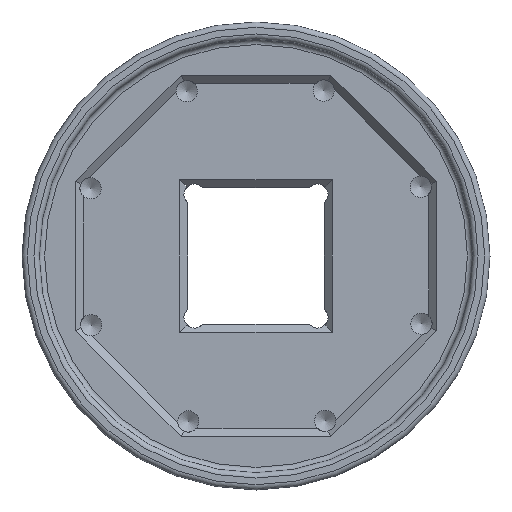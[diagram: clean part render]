
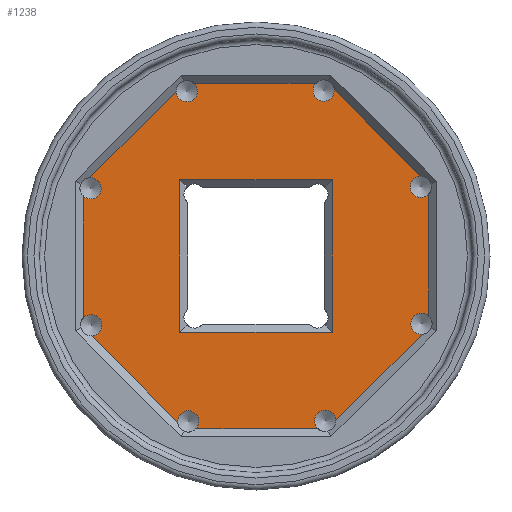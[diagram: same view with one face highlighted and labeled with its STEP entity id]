
A CAD part, front view. The second image highlights one B-rep face of the part: STEP entity #1238.
In plain terms, the highlighted planar face has unit normal (0, -1, 0).
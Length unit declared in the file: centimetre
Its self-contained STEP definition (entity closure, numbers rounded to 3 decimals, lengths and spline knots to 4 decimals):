
#478=VERTEX_POINT('',#10418);
#479=VERTEX_POINT('',#10419);
#484=VERTEX_POINT('',#10433);
#487=VERTEX_POINT('',#10443);
#490=VERTEX_POINT('',#10453);
#493=VERTEX_POINT('',#10462);
#495=VERTEX_POINT('',#10470);
#496=VERTEX_POINT('',#10472);
#497=VERTEX_POINT('',#10474);
#498=VERTEX_POINT('',#10476);
#499=VERTEX_POINT('',#10478);
#500=VERTEX_POINT('',#10480);
#501=VERTEX_POINT('',#10482);
#502=VERTEX_POINT('',#10484);
#503=VERTEX_POINT('',#10486);
#504=VERTEX_POINT('',#10488);
#505=VERTEX_POINT('',#10491);
#506=VERTEX_POINT('',#10492);
#507=VERTEX_POINT('',#10494);
#508=VERTEX_POINT('',#10496);
#588=EDGE_CURVE('',#478,#479,#3925,.T.);
#596=EDGE_CURVE('',#479,#484,#6855,.T.);
#600=EDGE_CURVE('',#484,#487,#3927,.T.);
#606=EDGE_CURVE('',#487,#490,#6861,.T.);
#609=EDGE_CURVE('',#490,#493,#3929,.T.);
#613=EDGE_CURVE('',#493,#495,#6864,.T.);
#614=EDGE_CURVE('',#495,#496,#3931,.T.);
#615=EDGE_CURVE('',#496,#497,#6865,.T.);
#616=EDGE_CURVE('',#497,#498,#3932,.T.);
#617=EDGE_CURVE('',#498,#499,#6866,.T.);
#618=EDGE_CURVE('',#499,#500,#3933,.T.);
#619=EDGE_CURVE('',#500,#501,#6867,.T.);
#620=EDGE_CURVE('',#501,#502,#3934,.T.);
#621=EDGE_CURVE('',#502,#503,#6868,.T.);
#622=EDGE_CURVE('',#503,#504,#3935,.T.);
#623=EDGE_CURVE('',#504,#478,#6869,.T.);
#624=EDGE_CURVE('',#505,#506,#6870,.T.);
#625=EDGE_CURVE('',#507,#505,#6871,.T.);
#626=EDGE_CURVE('',#508,#507,#6872,.T.);
#627=EDGE_CURVE('',#506,#508,#6873,.T.);
#787=ORIENTED_EDGE('',*,*,#588,.T.);
#788=ORIENTED_EDGE('',*,*,#596,.T.);
#789=ORIENTED_EDGE('',*,*,#600,.T.);
#790=ORIENTED_EDGE('',*,*,#606,.T.);
#791=ORIENTED_EDGE('',*,*,#609,.T.);
#792=ORIENTED_EDGE('',*,*,#613,.T.);
#793=ORIENTED_EDGE('',*,*,#614,.T.);
#794=ORIENTED_EDGE('',*,*,#615,.T.);
#795=ORIENTED_EDGE('',*,*,#616,.T.);
#796=ORIENTED_EDGE('',*,*,#617,.T.);
#797=ORIENTED_EDGE('',*,*,#618,.T.);
#798=ORIENTED_EDGE('',*,*,#619,.T.);
#799=ORIENTED_EDGE('',*,*,#620,.T.);
#800=ORIENTED_EDGE('',*,*,#621,.T.);
#801=ORIENTED_EDGE('',*,*,#622,.T.);
#802=ORIENTED_EDGE('',*,*,#623,.T.);
#803=ORIENTED_EDGE('',*,*,#624,.F.);
#804=ORIENTED_EDGE('',*,*,#625,.F.);
#805=ORIENTED_EDGE('',*,*,#626,.F.);
#806=ORIENTED_EDGE('',*,*,#627,.F.);
#1048=EDGE_LOOP('',(#787,#788,#789,#790,#791,#792,#793,#794,#795,#796,#797,
#798,#799,#800,#801,#802));
#1049=EDGE_LOOP('',(#803,#804,#805,#806));
#1146=FACE_BOUND('',#1048,.T.);
#1147=FACE_BOUND('',#1049,.T.);
#1238=ADVANCED_FACE('',(#1146,#1147),#3572,.F.);
#3429=AXIS2_PLACEMENT_3D('',#10417,#5458,#5459);
#3438=AXIS2_PLACEMENT_3D('',#10442,#5481,#5482);
#3446=AXIS2_PLACEMENT_3D('',#10461,#5500,#5501);
#3450=AXIS2_PLACEMENT_3D('',#10468,#5509,$);
#3451=AXIS2_PLACEMENT_3D('',#10471,#5511,#5512);
#3452=AXIS2_PLACEMENT_3D('',#10475,#5514,#5515);
#3453=AXIS2_PLACEMENT_3D('',#10479,#5517,#5518);
#3454=AXIS2_PLACEMENT_3D('',#10483,#5520,#5521);
#3455=AXIS2_PLACEMENT_3D('',#10487,#5523,#5524);
#3572=PLANE('',#3450);
#3925=CIRCLE('',#3429,0.2);
#3927=CIRCLE('',#3438,0.2);
#3929=CIRCLE('',#3446,0.2);
#3931=CIRCLE('',#3451,0.2);
#3932=CIRCLE('',#3452,0.2);
#3933=CIRCLE('',#3453,0.2);
#3934=CIRCLE('',#3454,0.2);
#3935=CIRCLE('',#3455,0.2);
#5458=DIRECTION('',(0.,1.,0.));
#5459=DIRECTION('',(0.,0.,0.2));
#5473=DIRECTION('',(1.,0.,0.));
#5481=DIRECTION('',(0.,1.,0.));
#5482=DIRECTION('',(0.,0.,0.2));
#5493=DIRECTION('',(0.707,0.,0.707));
#5500=DIRECTION('',(0.,1.,0.));
#5501=DIRECTION('',(0.,0.,0.2));
#5509=DIRECTION('',(0.,1.,0.));
#5510=DIRECTION('',(0.,0.,1.));
#5511=DIRECTION('',(0.,1.,0.));
#5512=DIRECTION('',(0.,0.,0.2));
#5513=DIRECTION('',(-0.707,0.,0.707));
#5514=DIRECTION('',(0.,1.,0.));
#5515=DIRECTION('',(0.,0.,0.2));
#5516=DIRECTION('',(-1.,0.,0.));
#5517=DIRECTION('',(0.,1.,0.));
#5518=DIRECTION('',(0.,0.,0.2));
#5519=DIRECTION('',(-0.707,0.,-0.707));
#5520=DIRECTION('',(0.,1.,0.));
#5521=DIRECTION('',(0.,0.,0.2));
#5522=DIRECTION('',(0.,0.,-1.));
#5523=DIRECTION('',(0.,1.,0.));
#5524=DIRECTION('',(0.,0.,0.2));
#5525=DIRECTION('',(0.707,0.,-0.707));
#5526=DIRECTION('',(-1.,0.,0.));
#5527=DIRECTION('',(0.,0.,1.));
#5528=DIRECTION('',(1.,0.,0.));
#5529=DIRECTION('',(0.,0.,-1.));
#6309=VECTOR('',#5473,1.);
#6315=VECTOR('',#5493,1.);
#6318=VECTOR('',#5510,1.);
#6319=VECTOR('',#5513,1.);
#6320=VECTOR('',#5516,1.);
#6321=VECTOR('',#5519,1.);
#6322=VECTOR('',#5522,1.);
#6323=VECTOR('',#5525,1.);
#6324=VECTOR('',#5526,1.);
#6325=VECTOR('',#5527,1.);
#6326=VECTOR('',#5528,1.);
#6327=VECTOR('',#5529,1.);
#6855=LINE('',#10434,#6309);
#6861=LINE('',#10454,#6315);
#6864=LINE('',#10469,#6318);
#6865=LINE('',#10473,#6319);
#6866=LINE('',#10477,#6320);
#6867=LINE('',#10481,#6321);
#6868=LINE('',#10485,#6322);
#6869=LINE('',#10489,#6323);
#6870=LINE('',#10490,#6324);
#6871=LINE('',#10493,#6325);
#6872=LINE('',#10495,#6326);
#6873=LINE('',#10497,#6327);
#10417=CARTESIAN_POINT('',(-1.2728,-2.6,-3.1113));
#10418=CARTESIAN_POINT('',(-1.4724,-2.6,-3.1238));
#10419=CARTESIAN_POINT('',(-1.1287,-2.6,-3.25));
#10433=CARTESIAN_POINT('',(1.1677,-2.6,-3.25));
#10434=CARTESIAN_POINT('',(-1.3462,-2.6,-3.25));
#10442=CARTESIAN_POINT('',(1.3,-2.6,-3.1));
#10443=CARTESIAN_POINT('',(1.5,-2.6,-3.0962));
#10453=CARTESIAN_POINT('',(3.1238,-2.6,-1.4724));
#10454=CARTESIAN_POINT('',(1.3462,-2.6,-3.25));
#10461=CARTESIAN_POINT('',(3.1113,-2.6,-1.2728));
#10462=CARTESIAN_POINT('',(3.25,-2.6,-1.1287));
#10468=CARTESIAN_POINT('',(0.,-2.6,0.));
#10469=CARTESIAN_POINT('',(3.25,-2.6,-1.3462));
#10470=CARTESIAN_POINT('',(3.25,-2.6,1.1677));
#10471=CARTESIAN_POINT('',(3.1,-2.6,1.3));
#10472=CARTESIAN_POINT('',(3.0962,-2.6,1.5));
#10473=CARTESIAN_POINT('',(3.25,-2.6,1.3462));
#10474=CARTESIAN_POINT('',(1.4724,-2.6,3.1238));
#10475=CARTESIAN_POINT('',(1.2728,-2.6,3.1113));
#10476=CARTESIAN_POINT('',(1.1287,-2.6,3.25));
#10477=CARTESIAN_POINT('',(1.3462,-2.6,3.25));
#10478=CARTESIAN_POINT('',(-1.1677,-2.6,3.25));
#10479=CARTESIAN_POINT('',(-1.3,-2.6,3.1));
#10480=CARTESIAN_POINT('',(-1.5,-2.6,3.0962));
#10481=CARTESIAN_POINT('',(-1.3462,-2.6,3.25));
#10482=CARTESIAN_POINT('',(-3.1238,-2.6,1.4724));
#10483=CARTESIAN_POINT('',(-3.1113,-2.6,1.2728));
#10484=CARTESIAN_POINT('',(-3.25,-2.6,1.1287));
#10485=CARTESIAN_POINT('',(-3.25,-2.6,1.3462));
#10486=CARTESIAN_POINT('',(-3.25,-2.6,-1.1677));
#10487=CARTESIAN_POINT('',(-3.1,-2.6,-1.3));
#10488=CARTESIAN_POINT('',(-3.0962,-2.6,-1.5));
#10489=CARTESIAN_POINT('',(-3.25,-2.6,-1.3462));
#10490=CARTESIAN_POINT('',(0.,-2.6,1.435));
#10491=CARTESIAN_POINT('',(1.435,-2.6,1.435));
#10492=CARTESIAN_POINT('',(-1.435,-2.6,1.435));
#10493=CARTESIAN_POINT('',(1.435,-2.6,0.));
#10494=CARTESIAN_POINT('',(1.435,-2.6,-1.435));
#10495=CARTESIAN_POINT('',(0.,-2.6,-1.435));
#10496=CARTESIAN_POINT('',(-1.435,-2.6,-1.435));
#10497=CARTESIAN_POINT('',(-1.435,-2.6,0.));
